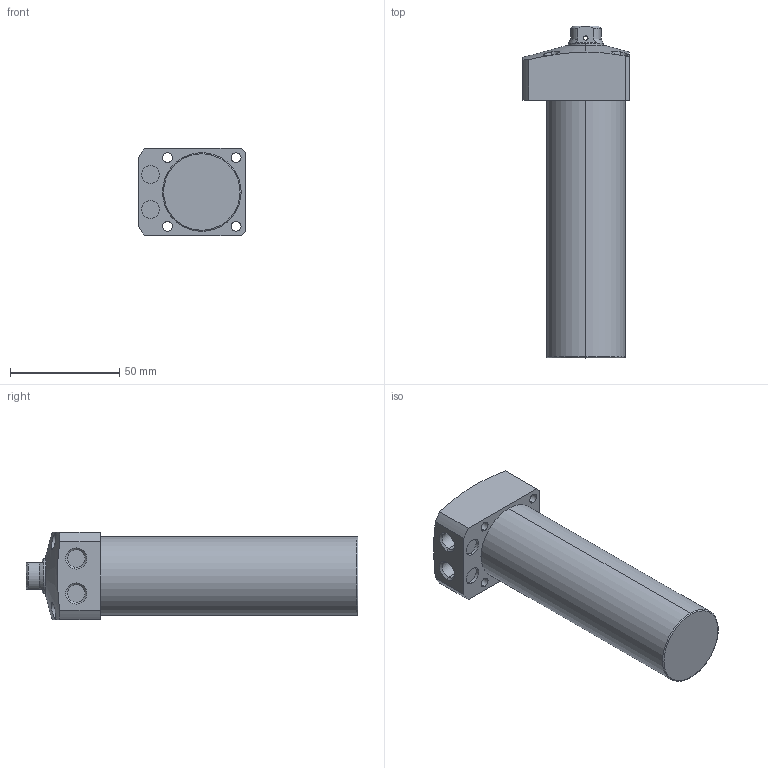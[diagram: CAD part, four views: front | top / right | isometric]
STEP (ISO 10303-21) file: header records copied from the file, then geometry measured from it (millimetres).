
FILE_DESCRIPTION (( 'STEP AP203' ), '1' );
FILE_NAME ('CLL-036CB-095.STEP', '2019-12-21T02:37:30', ( '' ), ( '' ), 'SwSTEP 2.0', 'SolidWorks 2015', '' );
FILE_SCHEMA (( 'CONFIG_CONTROL_DESIGN' ));
Length unit declared in the file: millimetre
Products named in the file (1): CLL-036CB-095
Bounding box: 49 x 152 x 40 mm (x, y, z)
Volume: 161529.5 mm3; surface area: 23553.6 mm2
Topology: 1 solids, 1 shells, 76 faces, 184 edges, 117 vertices
Faces by surface type: cylinder 38, plane 22, cone 14, torus 2
Entity records: 2699 total; most frequent: CARTESIAN_POINT 814, DIRECTION 386, ORIENTED_EDGE 364, EDGE_CURVE 182, AXIS2_PLACEMENT_3D 159, VERTEX_POINT 117, EDGE_LOOP 97, CIRCLE 82
